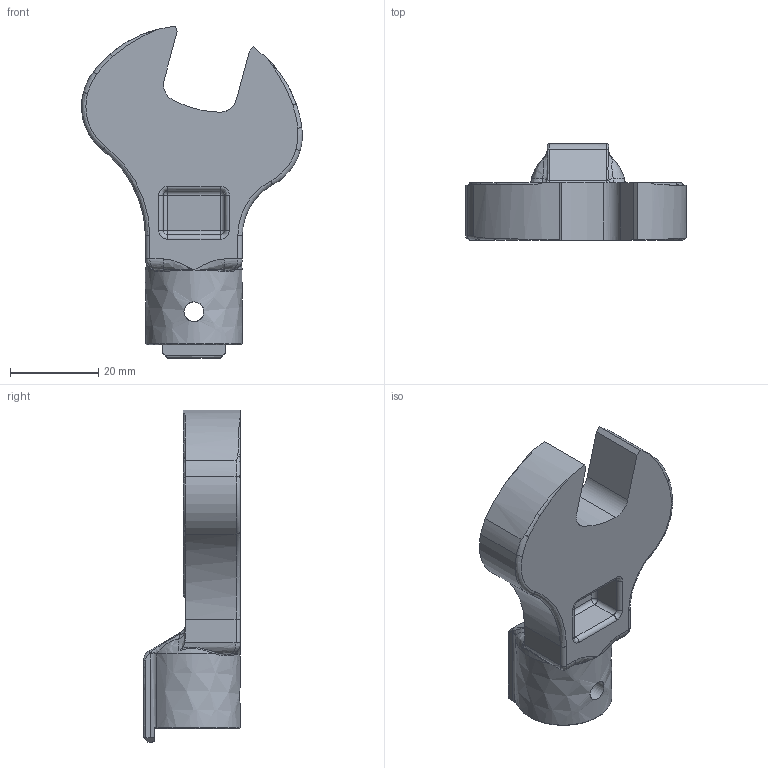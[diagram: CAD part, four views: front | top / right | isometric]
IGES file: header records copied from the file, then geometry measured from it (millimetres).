
Global section: file name: SH15DX17; native system: Autodesk Inventor 2016; preprocessor: unknown; author: Q600; date: 20151029.184440; units: millimetre
Bounding box: 50.17 x 22 x 75.43 mm (x, y, z)
Volume: 23519.6 mm3; surface area: 8488.8 mm2
Topology: 1 solids, 1 shells, 133 faces, 349 edges, 212 vertices
Faces by surface type: bspline 133
